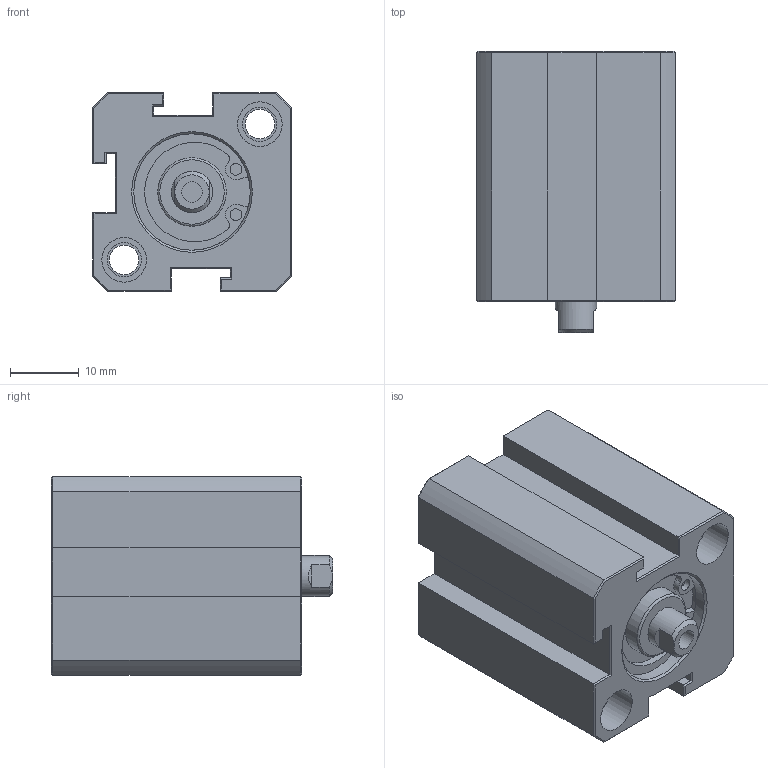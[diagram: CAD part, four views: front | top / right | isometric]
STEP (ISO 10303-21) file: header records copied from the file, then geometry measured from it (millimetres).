
FILE_DESCRIPTION(/* description */ (''),/* implementation_level */ '2;1');
FILE_NAME(/* name */ 'AJC-SDM16X5N',/* time_stamp */ '2019-06-19T16:01:43+08:00',/* author */ ('JEFF HUANG'),/* organization */ ('TAIWAN AMAC CLAMP INDUSTRIAL CO., LTD.'),/* preprocessor_version */ 'ST-DEVELOPER v16.7',/* originating_system */ 'DEX',/* authorisation */ $);
FILE_SCHEMA (('AUTOMOTIVE_DESIGN {1 0 10303 214 3 1 1}'));
Length unit declared in the file: millimetre
Products named in the file (1): AJC-SDM16X5N
Bounding box: 29 x 41 x 29 mm (x, y, z)
Volume: 25051 mm3; surface area: 8451.7 mm2
Topology: 1 solids, 1 shells, 152 faces, 332 edges, 202 vertices
Faces by surface type: plane 100, cylinder 38, cone 12, torus 2
Full cylindrical faces by diameter (mm): 1.7 x4, 3 x1, 4.3 x2, 5 x6, 6 x1, 6.5 x4, 10 x2, 17 x2
Entity records: 5035 total; most frequent: CARTESIAN_POINT 726, DIRECTION 677, ORIENTED_EDGE 602, EDGE_CURVE 301, AXIS2_PLACEMENT_3D 246, EDGE_LOOP 202, FACE_BOUND 202, VERTEX_POINT 197
